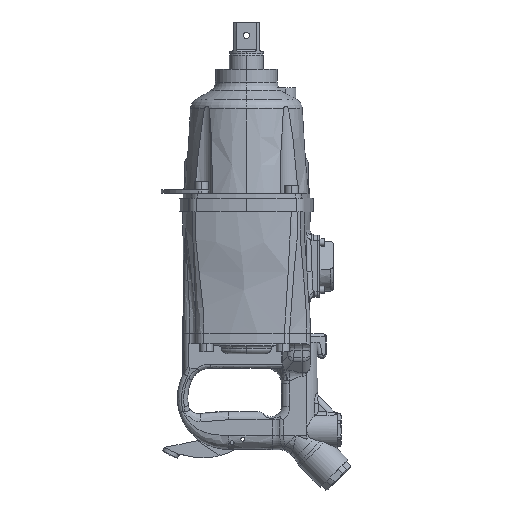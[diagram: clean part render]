
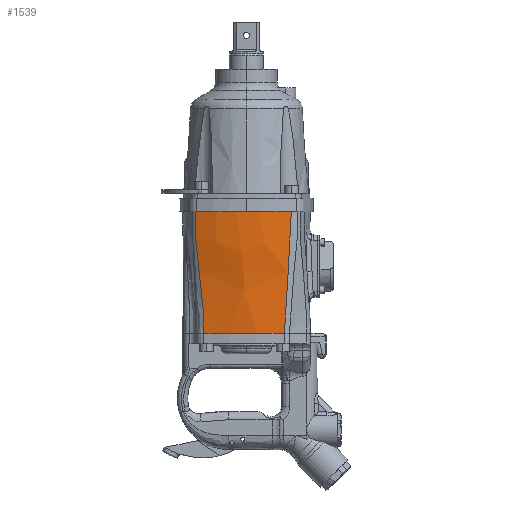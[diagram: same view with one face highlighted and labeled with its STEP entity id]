
A CAD part, left-side view. The second image highlights one B-rep face of the part: STEP entity #1539.
In plain terms, the highlighted free-form (B-spline) face has degree [3, 3] with [8, 6] control points.
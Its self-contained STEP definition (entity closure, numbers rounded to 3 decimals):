
#1405 = VERTEX_POINT ( 'NONE', #14564 ) ;
#1407 = EDGE_CURVE ( 'NONE', #1408, #1405, #14633, .T. ) ;
#1408 = VERTEX_POINT ( 'NONE', #14625 ) ;
#1410 = EDGE_CURVE ( 'NONE', #1411, #1408, #14621, .T. ) ;
#1411 = VERTEX_POINT ( 'NONE', #14615 ) ;
#1539 = ADVANCED_FACE ( 'NONE', ( #15829 ), #15872, .T. ) ;
#1540 = EDGE_LOOP ( 'NONE', ( #1541, #1544, #1546, #1547, #1548 ) ) ;
#1541 = ORIENTED_EDGE ( 'NONE', *, *, #1542, .F. ) ;
#1542 = EDGE_CURVE ( 'NONE', #1543, #1560, #15859, .T. ) ;
#1543 = VERTEX_POINT ( 'NONE', #15856 ) ;
#1544 = ORIENTED_EDGE ( 'NONE', *, *, #1545, .T. ) ;
#1545 = EDGE_CURVE ( 'NONE', #1543, #1411, #15878, .T. ) ;
#1546 = ORIENTED_EDGE ( 'NONE', *, *, #1410, .T. ) ;
#1547 = ORIENTED_EDGE ( 'NONE', *, *, #1407, .T. ) ;
#1548 = ORIENTED_EDGE ( 'NONE', *, *, #1562, .F. ) ;
#1560 = VERTEX_POINT ( 'NONE', #15991 ) ;
#1562 = EDGE_CURVE ( 'NONE', #1560, #1405, #16055, .T. ) ;
#14564 = CARTESIAN_POINT ( 'NONE',  ( -52.014, -36.889, -120. ) ) ;
#14615 = CARTESIAN_POINT ( 'NONE',  ( -48.603, 41.272, -120. ) ) ;
#14617 = DIRECTION ( 'NONE',  ( -1., 0., 0. ) ) ;
#14618 = DIRECTION ( 'NONE',  ( 0., 0., 1. ) ) ;
#14619 = CARTESIAN_POINT ( 'NONE',  ( 145.642, -6.359, -120. ) ) ;
#14620 = AXIS2_PLACEMENT_3D ( 'NONE', #14619, #14618, #14617 ) ;
#14621 = CIRCLE ( 'NONE', #14620, 200. ) ;
#14625 = CARTESIAN_POINT ( 'NONE',  ( -52.015, -36.879, -120. ) ) ;
#14627 = DIRECTION ( 'NONE',  ( -1., 0., 0. ) ) ;
#14629 = DIRECTION ( 'NONE',  ( 0., 0., 1. ) ) ;
#14631 = CARTESIAN_POINT ( 'NONE',  ( -42.132, -35.353, -120. ) ) ;
#14632 = AXIS2_PLACEMENT_3D ( 'NONE', #14631, #14629, #14627 ) ;
#14633 = CIRCLE ( 'NONE', #14632, 10. ) ;
#15829 = FACE_OUTER_BOUND ( 'NONE', #1540, .T. ) ;
#15831 = CARTESIAN_POINT ( 'NONE',  ( -64.469, -10.628, -7.338 ) ) ;
#15832 = CARTESIAN_POINT ( 'NONE',  ( -64.401, -10.615, -2. ) ) ;
#15834 = CARTESIAN_POINT ( 'NONE',  ( -52.592, -32.953, -120. ) ) ;
#15835 = CARTESIAN_POINT ( 'NONE',  ( -52.587, -32.944, -117.666 ) ) ;
#15836 = CARTESIAN_POINT ( 'NONE',  ( -52.512, -32.815, -83.479 ) ) ;
#15837 = CARTESIAN_POINT ( 'NONE',  ( -56.22, -39.236, -44.534 ) ) ;
#15839 = CARTESIAN_POINT ( 'NONE',  ( -56.09, -39.011, -7.338 ) ) ;
#15841 = CARTESIAN_POINT ( 'NONE',  ( -56.063, -38.964, -2. ) ) ;
#15845 = CARTESIAN_POINT ( 'NONE',  ( -52.318, -34.923, -120. ) ) ;
#15848 = CARTESIAN_POINT ( 'NONE',  ( -52.313, -34.913, -117.666 ) ) ;
#15849 = CARTESIAN_POINT ( 'NONE',  ( -52.249, -34.777, -83.479 ) ) ;
#15850 = CARTESIAN_POINT ( 'NONE',  ( -55.45, -41.555, -44.534 ) ) ;
#15851 = CARTESIAN_POINT ( 'NONE',  ( -55.338, -41.318, -7.338 ) ) ;
#15852 = CARTESIAN_POINT ( 'NONE',  ( -55.315, -41.269, -2. ) ) ;
#15856 = CARTESIAN_POINT ( 'NONE',  ( -52.158, 49.671, -2. ) ) ;
#15859 = B_SPLINE_CURVE_WITH_KNOTS ( 'NONE', 3,
 ( #15875, #15874, #15989, #15988, #15985, #15983, #15980, #15978 ),
 .UNSPECIFIED., .F., .F.,
 ( 4, 2, 2, 4 ),
 ( 0., 0.007, 0.088, 0.096 ),
 .UNSPECIFIED. ) ;
#15872 = B_SPLINE_SURFACE_WITH_KNOTS ( 'NONE', 3, 3, ( 
 ( #15939, #15937, #15935, #15934, #15933, #15932 ),
 ( #15852, #15851, #15850, #15849, #15848, #15845 ),
 ( #15841, #15839, #15837, #15836, #15835, #15834 ),
 ( #15832, #15831, #15917, #15915, #15913, #15912 ),
 ( #15910, #15909, #15908, #15907, #15905, #15904 ),
 ( #15903, #15901, #15900, #15898, #15897, #15896 ),
 ( #15895, #15894, #15893, #15892, #15890, #15889 ),
 ( #15887, #15886, #15885, #15884, #15883, #15881 ) ),
 .UNSPECIFIED., .F., .F., .F.,
 ( 4, 2, 2, 4 ),
 ( 4, 1, 1, 4 ),
 ( 0.064, 0.135, 0.929, 1. ),
 ( 0.017, 0.149, 0.942, 1. ),
 .UNSPECIFIED. ) ;
#15874 = CARTESIAN_POINT ( 'NONE',  ( -53.094, 47.407, -2. ) ) ;
#15875 = CARTESIAN_POINT ( 'NONE',  ( -52.158, 49.671, -2. ) ) ;
#15878 = B_SPLINE_CURVE_WITH_KNOTS ( 'NONE', 3,
 ( #15973, #15972, #15971, #15970, #15969, #15968 ),
 .UNSPECIFIED., .F., .F.,
 ( 4, 1, 1, 4 ),
 ( 0.017, 0.149, 0.942, 1. ),
 .UNSPECIFIED. ) ;
#15881 = CARTESIAN_POINT ( 'NONE',  ( -48.603, 41.272, -120. ) ) ;
#15883 = CARTESIAN_POINT ( 'NONE',  ( -48.598, 41.26, -117.666 ) ) ;
#15884 = CARTESIAN_POINT ( 'NONE',  ( -48.521, 41.079, -83.479 ) ) ;
#15885 = CARTESIAN_POINT ( 'NONE',  ( -52.318, 50.05, -44.534 ) ) ;
#15886 = CARTESIAN_POINT ( 'NONE',  ( -52.185, 49.736, -7.338 ) ) ;
#15887 = CARTESIAN_POINT ( 'NONE',  ( -52.158, 49.671, -2. ) ) ;
#15889 = CARTESIAN_POINT ( 'NONE',  ( -49.081, 39.325, -120. ) ) ;
#15890 = CARTESIAN_POINT ( 'NONE',  ( -49.075, 39.313, -117.666 ) ) ;
#15892 = CARTESIAN_POINT ( 'NONE',  ( -48.988, 39.139, -83.479 ) ) ;
#15893 = CARTESIAN_POINT ( 'NONE',  ( -53.275, 47.772, -44.534 ) ) ;
#15894 = CARTESIAN_POINT ( 'NONE',  ( -53.125, 47.469, -7.338 ) ) ;
#15895 = CARTESIAN_POINT ( 'NONE',  ( -53.094, 47.407, -2. ) ) ;
#15896 = CARTESIAN_POINT ( 'NONE',  ( -49.529, 37.372, -120. ) ) ;
#15897 = CARTESIAN_POINT ( 'NONE',  ( -49.522, 37.361, -117.666 ) ) ;
#15898 = CARTESIAN_POINT ( 'NONE',  ( -49.427, 37.194, -83.479 ) ) ;
#15900 = CARTESIAN_POINT ( 'NONE',  ( -54.164, 45.473, -44.534 ) ) ;
#15901 = CARTESIAN_POINT ( 'NONE',  ( -53.998, 45.183, -7.338 ) ) ;
#15903 = CARTESIAN_POINT ( 'NONE',  ( -53.964, 45.123, -2. ) ) ;
#15904 = CARTESIAN_POINT ( 'NONE',  ( -54.605, 13.603, -120. ) ) ;
#15905 = CARTESIAN_POINT ( 'NONE',  ( -54.592, 13.598, -117.666 ) ) ;
#15907 = CARTESIAN_POINT ( 'NONE',  ( -54.396, 13.521, -83.479 ) ) ;
#15908 = CARTESIAN_POINT ( 'NONE',  ( -64.126, 17.348, -44.534 ) ) ;
#15909 = CARTESIAN_POINT ( 'NONE',  ( -63.785, 17.214, -7.338 ) ) ;
#15910 = CARTESIAN_POINT ( 'NONE',  ( -63.715, 17.187, -2. ) ) ;
#15912 = CARTESIAN_POINT ( 'NONE',  ( -55.584, -8.834, -120. ) ) ;
#15913 = CARTESIAN_POINT ( 'NONE',  ( -55.571, -8.831, -117.666 ) ) ;
#15915 = CARTESIAN_POINT ( 'NONE',  ( -55.381, -8.793, -83.479 ) ) ;
#15917 = CARTESIAN_POINT ( 'NONE',  ( -64.799, -10.695, -44.534 ) ) ;
#15932 = CARTESIAN_POINT ( 'NONE',  ( -52.014, -36.889, -120. ) ) ;
#15933 = CARTESIAN_POINT ( 'NONE',  ( -52.01, -36.879, -117.666 ) ) ;
#15934 = CARTESIAN_POINT ( 'NONE',  ( -51.957, -36.736, -83.479 ) ) ;
#15935 = CARTESIAN_POINT ( 'NONE',  ( -54.613, -43.856, -44.534 ) ) ;
#15937 = CARTESIAN_POINT ( 'NONE',  ( -54.52, -43.607, -7.338 ) ) ;
#15939 = CARTESIAN_POINT ( 'NONE',  ( -54.501, -43.555, -2. ) ) ;
#15968 = CARTESIAN_POINT ( 'NONE',  ( -48.603, 41.272, -120. ) ) ;
#15969 = CARTESIAN_POINT ( 'NONE',  ( -48.598, 41.26, -117.666 ) ) ;
#15970 = CARTESIAN_POINT ( 'NONE',  ( -48.521, 41.079, -83.479 ) ) ;
#15971 = CARTESIAN_POINT ( 'NONE',  ( -52.318, 50.05, -44.534 ) ) ;
#15972 = CARTESIAN_POINT ( 'NONE',  ( -52.185, 49.736, -7.338 ) ) ;
#15973 = CARTESIAN_POINT ( 'NONE',  ( -52.158, 49.671, -2. ) ) ;
#15978 = CARTESIAN_POINT ( 'NONE',  ( -54.501, -43.555, -2. ) ) ;
#15980 = CARTESIAN_POINT ( 'NONE',  ( -55.315, -41.269, -2. ) ) ;
#15983 = CARTESIAN_POINT ( 'NONE',  ( -56.063, -38.964, -2. ) ) ;
#15985 = CARTESIAN_POINT ( 'NONE',  ( -64.401, -10.615, -2. ) ) ;
#15988 = CARTESIAN_POINT ( 'NONE',  ( -63.715, 17.187, -2. ) ) ;
#15989 = CARTESIAN_POINT ( 'NONE',  ( -53.964, 45.123, -2. ) ) ;
#15991 = CARTESIAN_POINT ( 'NONE',  ( -54.501, -43.555, -2. ) ) ;
#16055 = B_SPLINE_CURVE_WITH_KNOTS ( 'NONE', 3,
 ( #16162, #16160, #16159, #16157, #16156, #16154 ),
 .UNSPECIFIED., .F., .F.,
 ( 4, 1, 1, 4 ),
 ( 0.017, 0.149, 0.942, 1. ),
 .UNSPECIFIED. ) ;
#16154 = CARTESIAN_POINT ( 'NONE',  ( -52.014, -36.889, -120. ) ) ;
#16156 = CARTESIAN_POINT ( 'NONE',  ( -52.01, -36.879, -117.666 ) ) ;
#16157 = CARTESIAN_POINT ( 'NONE',  ( -51.957, -36.736, -83.479 ) ) ;
#16159 = CARTESIAN_POINT ( 'NONE',  ( -54.613, -43.856, -44.534 ) ) ;
#16160 = CARTESIAN_POINT ( 'NONE',  ( -54.52, -43.607, -7.338 ) ) ;
#16162 = CARTESIAN_POINT ( 'NONE',  ( -54.501, -43.555, -2. ) ) ;
